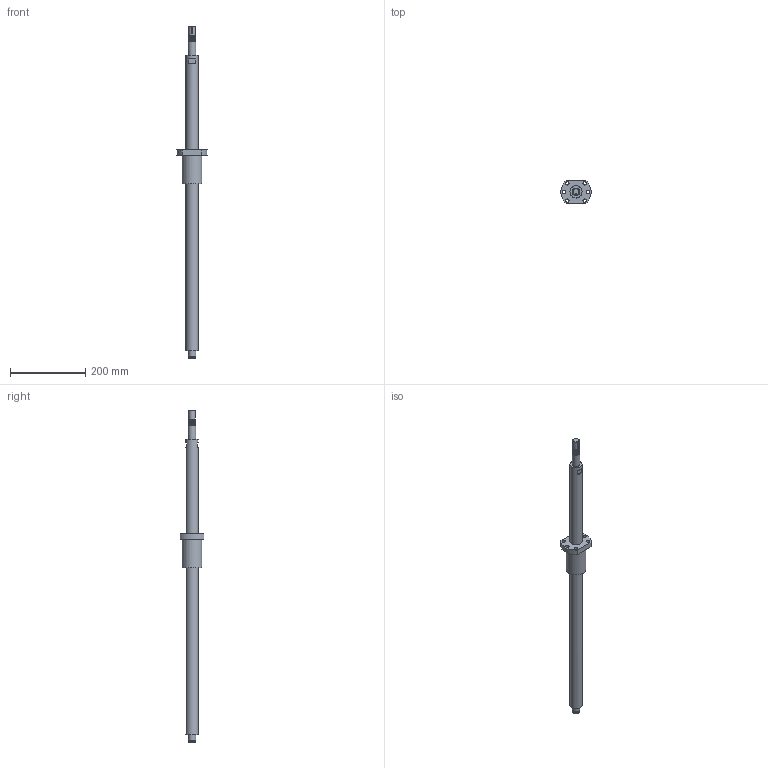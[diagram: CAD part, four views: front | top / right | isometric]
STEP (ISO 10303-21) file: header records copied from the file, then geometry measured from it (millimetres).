
FILE_DESCRIPTION(/* description */ (''),/* implementation_level */ '2;1');
FILE_NAME(/* name */ 'BSG434_asm1.stp',/* time_stamp */ '2017-01-12T15:51:10+08:00',/* author */ (''),/* organization */ (''),/* preprocessor_version */ 'ST-DEVELOPER v15',/* originating_system */ 'SIEMENS PLM Software NX 8.5',/* authorisation */ '');
FILE_SCHEMA (('AUTOMOTIVE_DESIGN { 1 0 10303 214 3 1 1 1 }'));
Length unit declared in the file: millimetre
Products named in the file (3): 01; BSG434; BSG434_asm1
Assembly tree (2 placements, depth 2):
  BSG434_asm1
    BSG434
    01
Bounding box: 79.74 x 62 x 880 mm (x, y, z)
Volume: 809684.7 mm3; surface area: 121081.5 mm2
Topology: 2 solids, 2 shells, 51 faces, 123 edges, 84 vertices
Faces by surface type: cylinder 24, plane 23, bspline 2, cone 2
Full cylindrical faces by diameter (mm): 9 x6, 17 x1, 19 x1, 20 x8, 32 x2, 53 x1
Entity records: 2679 total; most frequent: CARTESIAN_POINT 1653, DIRECTION 202, ORIENTED_EDGE 162, AXIS2_PLACEMENT_3D 87, EDGE_LOOP 82, EDGE_CURVE 81, VERTEX_POINT 63, FACE_BOUND 60
